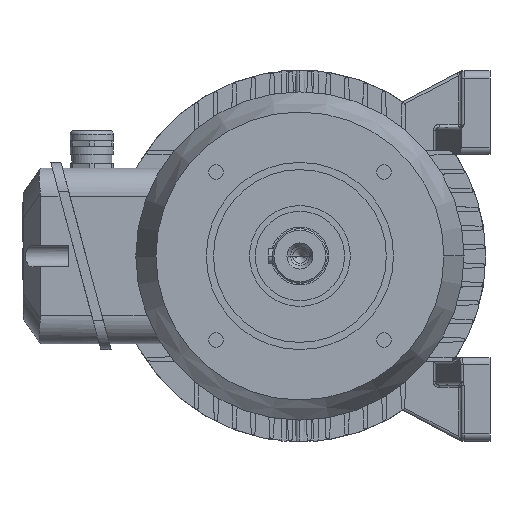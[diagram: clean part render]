
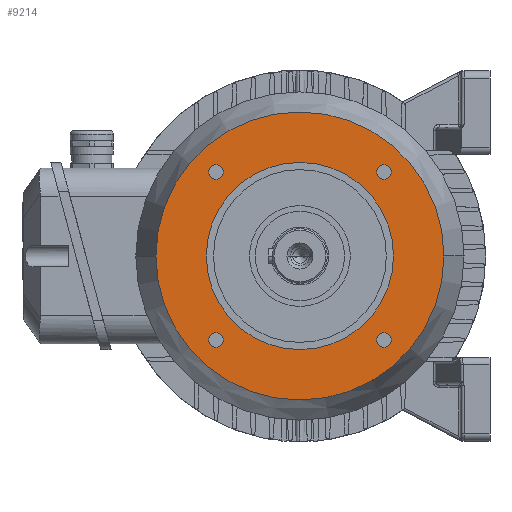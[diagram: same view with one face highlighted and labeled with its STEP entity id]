
A CAD part, left-side view. The second image highlights one B-rep face of the part: STEP entity #9214.
In plain terms, the highlighted planar face has unit normal (-1, 0, 0).
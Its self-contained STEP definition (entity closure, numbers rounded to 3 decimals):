
#210 = VERTEX_POINT ( 'NONE', #35069 ) ;
#601 = DIRECTION ( 'NONE',  ( 0., 1., 0. ) ) ;
#643 = ORIENTED_EDGE ( 'NONE', *, *, #21541, .F. ) ;
#1286 = CIRCLE ( 'NONE', #18728, 5. ) ;
#2029 = EDGE_CURVE ( 'NONE', #38816, #24410, #1286, .T. ) ;
#2175 = DIRECTION ( 'NONE',  ( 1., 0., 0. ) ) ;
#2514 = DIRECTION ( 'NONE',  ( -1., 0., 0. ) ) ;
#2516 = EDGE_CURVE ( 'NONE', #31945, #40354, #39830, .T. ) ;
#2562 = DIRECTION ( 'NONE',  ( -1., 0., 0. ) ) ;
#3579 = CARTESIAN_POINT ( 'NONE',  ( -70., -53.336, -58.336 ) ) ;
#4163 = FACE_OUTER_BOUND ( 'NONE', #13255, .T. ) ;
#4195 = DIRECTION ( 'NONE',  ( 0., -1., 0. ) ) ;
#4300 = DIRECTION ( 'NONE',  ( 0., -1., 0. ) ) ;
#4912 = CARTESIAN_POINT ( 'NONE',  ( -70., 58.336, 58.336 ) ) ;
#5014 = DIRECTION ( 'NONE',  ( -1., 0., 0. ) ) ;
#5356 = CIRCLE ( 'NONE', #6694, 5. ) ;
#5380 = ORIENTED_EDGE ( 'NONE', *, *, #41484, .F. ) ;
#5762 = DIRECTION ( 'NONE',  ( 0., -1., 0. ) ) ;
#6077 = EDGE_CURVE ( 'NONE', #19851, #25756, #5356, .T. ) ;
#6164 = EDGE_LOOP ( 'NONE', ( #5380, #27883 ) ) ;
#6694 = AXIS2_PLACEMENT_3D ( 'NONE', #24016, #7669, #4300 ) ;
#6712 = EDGE_CURVE ( 'NONE', #26525, #14528, #41918, .T. ) ;
#7363 = AXIS2_PLACEMENT_3D ( 'NONE', #29919, #33601, #7444 ) ;
#7444 = DIRECTION ( 'NONE',  ( 0., -1., 0. ) ) ;
#7669 = DIRECTION ( 'NONE',  ( -1., 0., 0. ) ) ;
#7807 = ORIENTED_EDGE ( 'NONE', *, *, #18739, .T. ) ;
#8170 = DIRECTION ( 'NONE',  ( 0., -1., 0. ) ) ;
#8410 = EDGE_LOOP ( 'NONE', ( #30137, #10898 ) ) ;
#8930 = DIRECTION ( 'NONE',  ( 0., 1., 0. ) ) ;
#8949 = ORIENTED_EDGE ( 'NONE', *, *, #2516, .F. ) ;
#9214 = ADVANCED_FACE ( 'NONE', ( #4163, #40724, #39710, #14346, #10223, #39225 ), #14713, .T. ) ;
#10202 = AXIS2_PLACEMENT_3D ( 'NONE', #24097, #24517, #14470 ) ;
#10223 = FACE_BOUND ( 'NONE', #34613, .T. ) ;
#10674 = CARTESIAN_POINT ( 'NONE',  ( -70., 53.336, 58.336 ) ) ;
#10898 = ORIENTED_EDGE ( 'NONE', *, *, #11641, .F. ) ;
#11122 = DIRECTION ( 'NONE',  ( 0., 0., 1. ) ) ;
#11641 = EDGE_CURVE ( 'NONE', #32112, #12094, #42129, .T. ) ;
#12094 = VERTEX_POINT ( 'NONE', #28732 ) ;
#12633 = CIRCLE ( 'NONE', #38555, 65. ) ;
#13255 = EDGE_LOOP ( 'NONE', ( #8949, #33983 ) ) ;
#13295 = CIRCLE ( 'NONE', #13933, 5. ) ;
#13933 = AXIS2_PLACEMENT_3D ( 'NONE', #14795, #27947, #16323 ) ;
#14307 = DIRECTION ( 'NONE',  ( -1., 0., 0. ) ) ;
#14346 = FACE_BOUND ( 'NONE', #6164, .T. ) ;
#14470 = DIRECTION ( 'NONE',  ( 0., 1., 0. ) ) ;
#14482 = ORIENTED_EDGE ( 'NONE', *, *, #24630, .T. ) ;
#14528 = VERTEX_POINT ( 'NONE', #21699 ) ;
#14713 = PLANE ( 'NONE',  #15269 ) ;
#14795 = CARTESIAN_POINT ( 'NONE',  ( -70., 58.336, -58.336 ) ) ;
#14913 = CIRCLE ( 'NONE', #40905, 5. ) ;
#15269 = AXIS2_PLACEMENT_3D ( 'NONE', #17669, #5014, #11122 ) ;
#15348 = DIRECTION ( 'NONE',  ( -1., 0., 0. ) ) ;
#15483 = CARTESIAN_POINT ( 'NONE',  ( -70., 58.336, -58.336 ) ) ;
#15816 = CARTESIAN_POINT ( 'NONE',  ( -70., 0., 0. ) ) ;
#16146 = CARTESIAN_POINT ( 'NONE',  ( -70., 53.336, -58.336 ) ) ;
#16323 = DIRECTION ( 'NONE',  ( 0., -1., 0. ) ) ;
#16633 = CARTESIAN_POINT ( 'NONE',  ( -70., 0., 0. ) ) ;
#17165 = AXIS2_PLACEMENT_3D ( 'NONE', #16633, #29552, #601 ) ;
#17669 = CARTESIAN_POINT ( 'NONE',  ( -70., 65., 0. ) ) ;
#18536 = CARTESIAN_POINT ( 'NONE',  ( -70., 65., 0. ) ) ;
#18728 = AXIS2_PLACEMENT_3D ( 'NONE', #4912, #14307, #8170 ) ;
#18739 = EDGE_CURVE ( 'NONE', #41613, #210, #37928, .T. ) ;
#18763 = CARTESIAN_POINT ( 'NONE',  ( -70., 0., 0. ) ) ;
#18836 = AXIS2_PLACEMENT_3D ( 'NONE', #37725, #2514, #5762 ) ;
#19150 = DIRECTION ( 'NONE',  ( 0., -1., 0. ) ) ;
#19326 = AXIS2_PLACEMENT_3D ( 'NONE', #23627, #23340, #4195 ) ;
#19851 = VERTEX_POINT ( 'NONE', #3579 ) ;
#19993 = DIRECTION ( 'NONE',  ( 1., 0., 0. ) ) ;
#20277 = ORIENTED_EDGE ( 'NONE', *, *, #6712, .F. ) ;
#21541 = EDGE_CURVE ( 'NONE', #24410, #38816, #14913, .T. ) ;
#21699 = CARTESIAN_POINT ( 'NONE',  ( -70., 63.336, -58.336 ) ) ;
#23340 = DIRECTION ( 'NONE',  ( -1., 0., 0. ) ) ;
#23627 = CARTESIAN_POINT ( 'NONE',  ( -70., -58.336, 58.336 ) ) ;
#24016 = CARTESIAN_POINT ( 'NONE',  ( -70., -58.336, -58.336 ) ) ;
#24097 = CARTESIAN_POINT ( 'NONE',  ( -70., 0., 0. ) ) ;
#24410 = VERTEX_POINT ( 'NONE', #10674 ) ;
#24517 = DIRECTION ( 'NONE',  ( 1., 0., 0. ) ) ;
#24630 = EDGE_CURVE ( 'NONE', #210, #41613, #12633, .T. ) ;
#24802 = DIRECTION ( 'NONE',  ( 0., -1., 0. ) ) ;
#24924 = CIRCLE ( 'NONE', #18836, 5. ) ;
#25329 = CARTESIAN_POINT ( 'NONE',  ( -70., -53.336, 58.336 ) ) ;
#25756 = VERTEX_POINT ( 'NONE', #28909 ) ;
#26525 = VERTEX_POINT ( 'NONE', #16146 ) ;
#27038 = CARTESIAN_POINT ( 'NONE',  ( -70., 100., 0. ) ) ;
#27883 = ORIENTED_EDGE ( 'NONE', *, *, #6077, .F. ) ;
#27915 = CARTESIAN_POINT ( 'NONE',  ( -70., -100., 0. ) ) ;
#27947 = DIRECTION ( 'NONE',  ( -1., 0., 0. ) ) ;
#28732 = CARTESIAN_POINT ( 'NONE',  ( -70., -63.336, 58.336 ) ) ;
#28820 = EDGE_CURVE ( 'NONE', #12094, #32112, #39283, .T. ) ;
#28909 = CARTESIAN_POINT ( 'NONE',  ( -70., -63.336, -58.336 ) ) ;
#29310 = EDGE_CURVE ( 'NONE', #40354, #31945, #34204, .T. ) ;
#29376 = AXIS2_PLACEMENT_3D ( 'NONE', #18763, #2175, #8930 ) ;
#29552 = DIRECTION ( 'NONE',  ( 1., 0., 0. ) ) ;
#29919 = CARTESIAN_POINT ( 'NONE',  ( -70., -58.336, 58.336 ) ) ;
#29954 = CARTESIAN_POINT ( 'NONE',  ( -70., 63.336, 58.336 ) ) ;
#30137 = ORIENTED_EDGE ( 'NONE', *, *, #28820, .F. ) ;
#30310 = EDGE_LOOP ( 'NONE', ( #7807, #14482 ) ) ;
#30738 = EDGE_CURVE ( 'NONE', #14528, #26525, #13295, .T. ) ;
#31467 = ORIENTED_EDGE ( 'NONE', *, *, #2029, .F. ) ;
#31945 = VERTEX_POINT ( 'NONE', #27038 ) ;
#32112 = VERTEX_POINT ( 'NONE', #25329 ) ;
#32697 = DIRECTION ( 'NONE',  ( 0., 1., 0. ) ) ;
#33601 = DIRECTION ( 'NONE',  ( -1., 0., 0. ) ) ;
#33983 = ORIENTED_EDGE ( 'NONE', *, *, #29310, .F. ) ;
#34204 = CIRCLE ( 'NONE', #17165, 100. ) ;
#34613 = EDGE_LOOP ( 'NONE', ( #20277, #37387 ) ) ;
#35069 = CARTESIAN_POINT ( 'NONE',  ( -70., -65., 0. ) ) ;
#37387 = ORIENTED_EDGE ( 'NONE', *, *, #30738, .F. ) ;
#37725 = CARTESIAN_POINT ( 'NONE',  ( -70., -58.336, -58.336 ) ) ;
#37928 = CIRCLE ( 'NONE', #10202, 65. ) ;
#38555 = AXIS2_PLACEMENT_3D ( 'NONE', #15816, #19993, #32697 ) ;
#38607 = CARTESIAN_POINT ( 'NONE',  ( -70., 58.336, 58.336 ) ) ;
#38816 = VERTEX_POINT ( 'NONE', #29954 ) ;
#39225 = FACE_BOUND ( 'NONE', #30310, .T. ) ;
#39283 = CIRCLE ( 'NONE', #19326, 5. ) ;
#39343 = AXIS2_PLACEMENT_3D ( 'NONE', #15483, #15348, #24802 ) ;
#39710 = FACE_BOUND ( 'NONE', #8410, .T. ) ;
#39830 = CIRCLE ( 'NONE', #29376, 100. ) ;
#40354 = VERTEX_POINT ( 'NONE', #27915 ) ;
#40724 = FACE_BOUND ( 'NONE', #41948, .T. ) ;
#40905 = AXIS2_PLACEMENT_3D ( 'NONE', #38607, #2562, #19150 ) ;
#41484 = EDGE_CURVE ( 'NONE', #25756, #19851, #24924, .T. ) ;
#41613 = VERTEX_POINT ( 'NONE', #18536 ) ;
#41918 = CIRCLE ( 'NONE', #39343, 5. ) ;
#41948 = EDGE_LOOP ( 'NONE', ( #643, #31467 ) ) ;
#42129 = CIRCLE ( 'NONE', #7363, 5. ) ;
